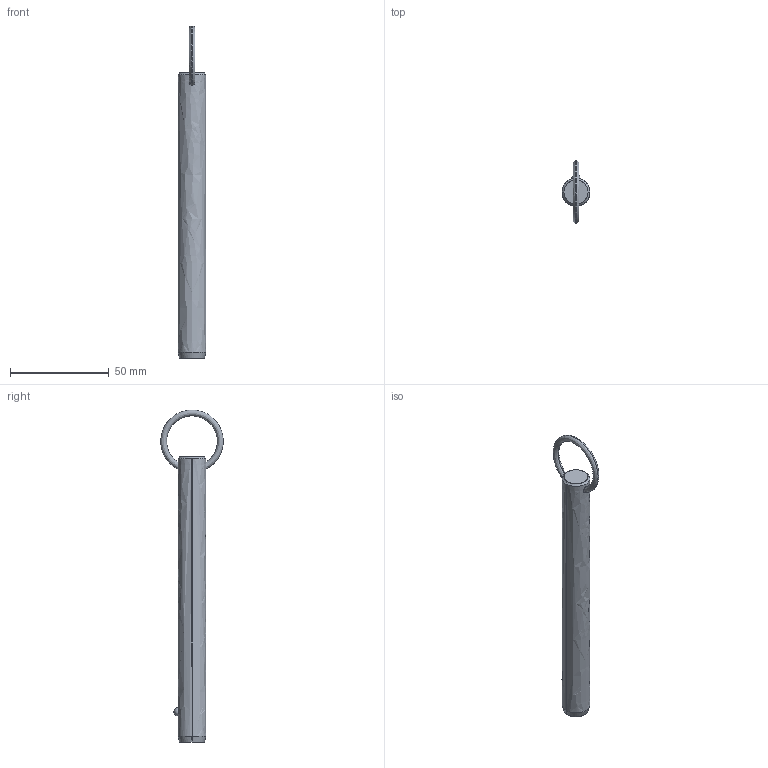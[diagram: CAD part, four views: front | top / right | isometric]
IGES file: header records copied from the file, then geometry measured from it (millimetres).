
Start section: SolidWorks IGES file using analytic representation for surfaces
Global section: file name: C:\Users\liam_\OneDrive\Documents\WORK\Work for WixRoyd\Job Files\J-00019 - Matt Davis CAD Checking\04. CAD Drawings\automotion20190605\P1250.2_v2\P1250.2_v2_20190729_IGES\P1250.056-470.igs; native system: SolidWorks 2017; preprocessor: SolidWorks 2017; author: liam_; date: 190729.232350; units: millimetre
Bounding box: 14.2 x 31.68 x 168.5 mm (x, y, z)
Surface area: 7421 mm2 (no closed solid volume)
Topology: 0 solids, 0 shells, 12 faces, 285 edges, 283 vertices
Faces by surface type: revolution 8, bspline 4
